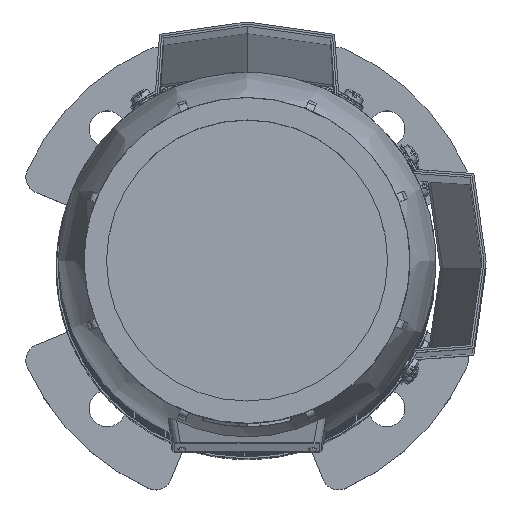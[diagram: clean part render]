
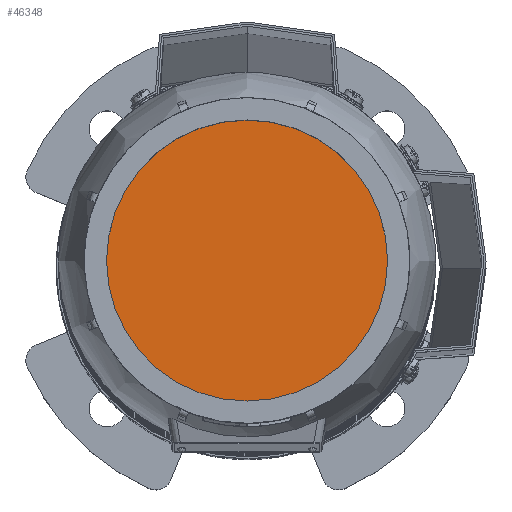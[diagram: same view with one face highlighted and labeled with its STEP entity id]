
A CAD part, top view. The second image highlights one B-rep face of the part: STEP entity #46348.
In plain terms, the highlighted planar face has unit normal (0, 0, 1) as drawn and (0, 1, 0) by its records, which use the part's own axes.
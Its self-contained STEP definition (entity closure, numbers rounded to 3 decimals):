
#9741=ORIENTED_EDGE('',*,*,#23687,.F.);
#23687=EDGE_CURVE('',#30660,#30660,#35367,.T.);
#30660=VERTEX_POINT('',#66988);
#35367=CIRCLE('',#48907,67.736);
#37489=EDGE_LOOP('',(#9741));
#40903=FACE_BOUND('',#37489,.T.);
#44335=PLANE('',#48906);
#46348=ADVANCED_FACE('',(#40903),#44335,.F.);
#48906=AXIS2_PLACEMENT_3D('',#66986,#53519,#53520);
#48907=AXIS2_PLACEMENT_3D('',#66987,#53521,#53522);
#53519=DIRECTION('',(0.,-1.,0.));
#53520=DIRECTION('',(0.,0.,-1.));
#53521=DIRECTION('',(0.,-1.,0.));
#53522=DIRECTION('',(0.,0.,-1.));
#66986=CARTESIAN_POINT('',(0.,154.,0.));
#66987=CARTESIAN_POINT('',(0.,154.,0.));
#66988=CARTESIAN_POINT('',(0.,154.,-67.736));
